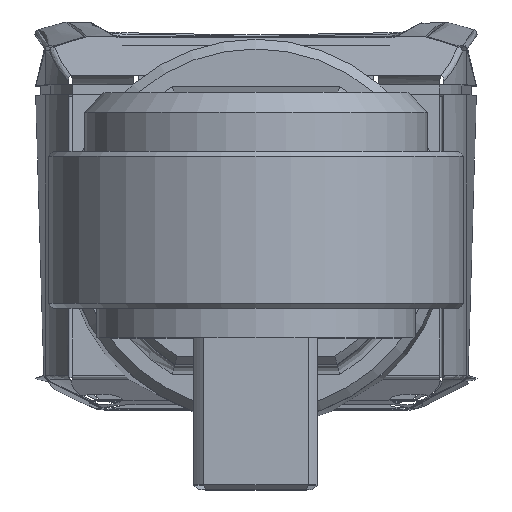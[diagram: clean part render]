
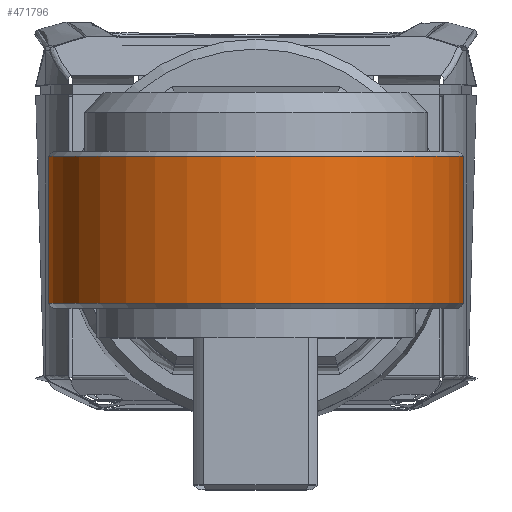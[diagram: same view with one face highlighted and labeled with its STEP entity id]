
A CAD part, top view. The second image highlights one B-rep face of the part: STEP entity #471796.
In plain terms, the highlighted cylindrical face has radius 21.176 mm (diameter 42.351 mm), a partial arc.
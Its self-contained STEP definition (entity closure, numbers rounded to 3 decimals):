
#470834=DIRECTION('',(0.,1.,0.));
#470835=VECTOR('',#470834,15.);
#470836=CARTESIAN_POINT('',(20.25,9.95,
416.809));
#470837=LINE('',#470836,#470835);
#471147=CARTESIAN_POINT('',(0.,9.95,423.));
#471148=DIRECTION('',(0.,-1.,0.));
#471149=DIRECTION('',(0.956,0.,-0.292));
#471150=AXIS2_PLACEMENT_3D('',#471147,#471148,#471149);
#471152=DIRECTION('',(0.,1.,0.));
#471153=VECTOR('',#471152,15.);
#471154=CARTESIAN_POINT('',(-20.25,9.95,
416.809));
#471155=LINE('',#471154,#471153);
#471156=CARTESIAN_POINT('',(0.,24.95,423.));
#471157=DIRECTION('',(0.,1.,0.));
#471158=DIRECTION('',(-0.956,0.,-0.292));
#471159=AXIS2_PLACEMENT_3D('',#471156,#471157,#471158);
#471253=CARTESIAN_POINT('',(-20.25,9.95,
416.809));
#471254=VERTEX_POINT('',#471253);
#471259=CARTESIAN_POINT('',(20.25,9.95,
416.809));
#471260=VERTEX_POINT('',#471259);
#471269=CARTESIAN_POINT('',(20.25,24.95,
416.809));
#471270=VERTEX_POINT('',#471269);
#471275=CARTESIAN_POINT('',(-20.25,24.95,
416.809));
#471276=VERTEX_POINT('',#471275);
#471784=CARTESIAN_POINT('',(0.,9.45,423.));
#471785=DIRECTION('',(0.,-1.,0.));
#471786=DIRECTION('',(1.,0.,0.));
#471787=AXIS2_PLACEMENT_3D('',#471784,#471785,#471786);
#471788=CYLINDRICAL_SURFACE('',#471787,21.176);
#471790=ORIENTED_EDGE('',*,*,#471789,.T.);
#471791=ORIENTED_EDGE('',*,*,#471752,.T.);
#471792=ORIENTED_EDGE('',*,*,#471778,.T.);
#471793=ORIENTED_EDGE('',*,*,#471395,.F.);
#471794=EDGE_LOOP('',(#471790,#471791,#471792,#471793));
#471795=FACE_OUTER_BOUND('',#471794,.F.);
#471151=CIRCLE('',#471150,21.176);
#471160=CIRCLE('',#471159,21.176);
#471395=EDGE_CURVE('',#471260,#471270,#470837,.T.);
#471752=EDGE_CURVE('',#471254,#471276,#471155,.T.);
#471778=EDGE_CURVE('',#471276,#471270,#471160,.T.);
#471789=EDGE_CURVE('',#471260,#471254,#471151,.T.);
#471796=ADVANCED_FACE('',(#471795),#471788,.T.);
